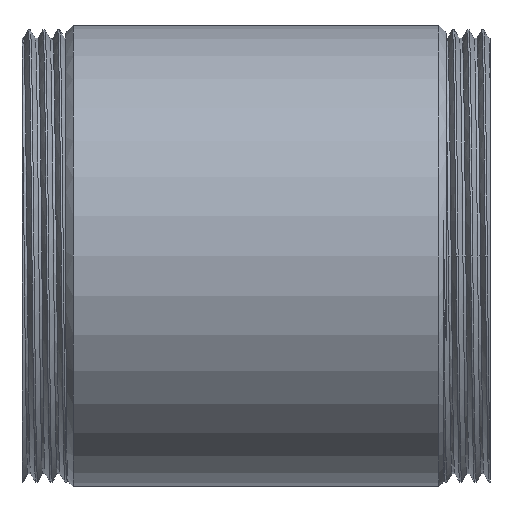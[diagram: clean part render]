
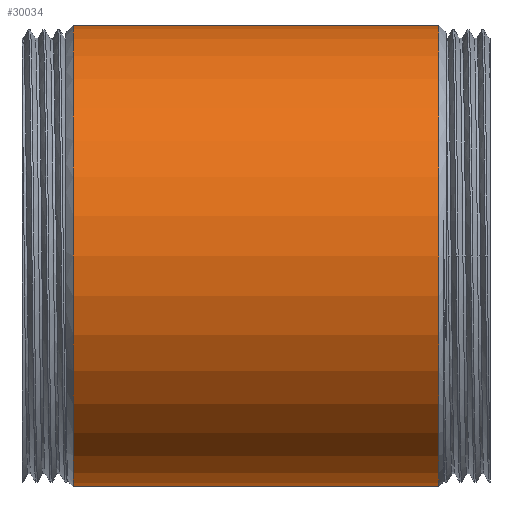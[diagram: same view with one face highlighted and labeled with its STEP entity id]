
A CAD part, left-side view. The second image highlights one B-rep face of the part: STEP entity #30034.
In plain terms, the highlighted cylindrical face has radius 31.5 mm (diameter 63 mm), a full revolution.
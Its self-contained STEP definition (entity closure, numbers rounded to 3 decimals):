
#672=FACE_OUTER_BOUND('',#2273,.T.);
#2273=EDGE_LOOP('',(#18925,#18926,#18927,#18928));
#4486=CIRCLE('',#31656,31.5);
#4488=CIRCLE('',#31659,31.5);
#7702=LINE('',#48602,#9289);
#9289=VECTOR('',#36466,31.5);
#10900=VERTEX_POINT('',#48248);
#10904=VERTEX_POINT('',#48409);
#14105=EDGE_CURVE('',#10900,#10900,#4486,.T.);
#14111=EDGE_CURVE('',#10904,#10904,#4488,.T.);
#14118=EDGE_CURVE('',#10900,#10904,#7702,.T.);
#18925=ORIENTED_EDGE('',*,*,#14105,.F.);
#18926=ORIENTED_EDGE('',*,*,#14118,.T.);
#18927=ORIENTED_EDGE('',*,*,#14111,.F.);
#18928=ORIENTED_EDGE('',*,*,#14118,.F.);
#28444=CYLINDRICAL_SURFACE('',#31663,31.5);
#30034=ADVANCED_FACE('',(#672),#28444,.T.);
#31656=AXIS2_PLACEMENT_3D('',#48249,#36447,#36448);
#31659=AXIS2_PLACEMENT_3D('',#48410,#36455,#36456);
#31663=AXIS2_PLACEMENT_3D('',#48601,#36464,#36465);
#36447=DIRECTION('center_axis',(0.,1.,0.));
#36448=DIRECTION('ref_axis',(-1.,0.,0.));
#36455=DIRECTION('center_axis',(0.,-1.,0.));
#36456=DIRECTION('ref_axis',(-1.,0.,0.));
#36464=DIRECTION('center_axis',(0.,1.,0.));
#36465=DIRECTION('ref_axis',(-1.,0.,0.));
#36466=DIRECTION('',(0.,-1.,0.));
#48248=CARTESIAN_POINT('',(31.5,59.915,0.));
#48249=CARTESIAN_POINT('Origin',(0.,59.915,0.));
#48409=CARTESIAN_POINT('',(31.5,10.,0.));
#48410=CARTESIAN_POINT('Origin',(0.,10.,0.));
#48601=CARTESIAN_POINT('Origin',(0.,9.,0.));
#48602=CARTESIAN_POINT('',(31.5,9.,0.));
